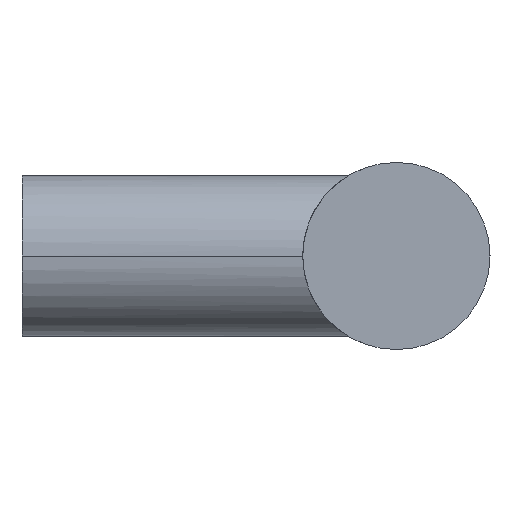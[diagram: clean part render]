
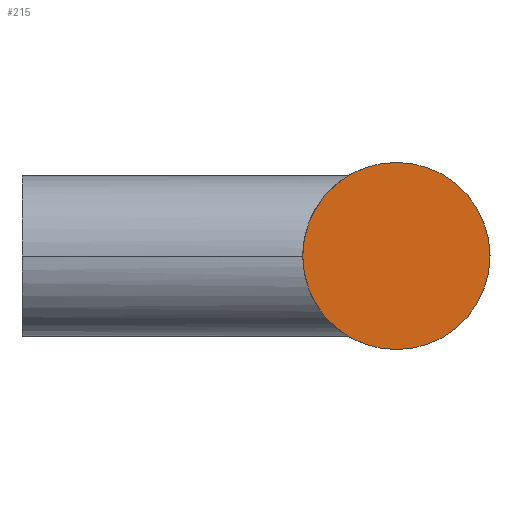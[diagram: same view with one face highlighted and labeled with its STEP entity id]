
A CAD part, left-side view. The second image highlights one B-rep face of the part: STEP entity #215.
In plain terms, the highlighted planar face has unit normal (-1, 0, 0).
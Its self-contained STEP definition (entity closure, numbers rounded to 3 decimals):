
#109 = VERTEX_POINT( '', #269 );
#135 = EDGE_CURVE( '', #163, #109, #297, .T. );
#145 = EDGE_CURVE( '', #109, #163, #312, .T. );
#163 = VERTEX_POINT( '', #332 );
#215 = ADVANCED_FACE( '', ( #390 ), #391, .F. );
#269 = CARTESIAN_POINT( '', ( -30., -28., 7. ) );
#297 = CIRCLE( '', #476, 7. );
#312 = CIRCLE( '', #494, 7. );
#332 = CARTESIAN_POINT( '', ( -30., -28., -7. ) );
#390 = FACE_OUTER_BOUND( '', #691, .T. );
#391 = PLANE( '', #692 );
#476 = AXIS2_PLACEMENT_3D( '', #795, #796, #797 );
#494 = AXIS2_PLACEMENT_3D( '', #821, #822, #823 );
#691 = EDGE_LOOP( '', ( #915, #916 ) );
#692 = AXIS2_PLACEMENT_3D( '', #917, #918, #919 );
#795 = CARTESIAN_POINT( '', ( -30., -28., 0. ) );
#796 = DIRECTION( '', ( 1., 0., 0. ) );
#797 = DIRECTION( '', ( 0., 0., -1. ) );
#821 = CARTESIAN_POINT( '', ( -30., -28., 0. ) );
#822 = DIRECTION( '', ( 1., 0., 0. ) );
#823 = DIRECTION( '', ( 0., 0., -1. ) );
#915 = ORIENTED_EDGE( '', *, *, #135, .F. );
#916 = ORIENTED_EDGE( '', *, *, #145, .F. );
#917 = CARTESIAN_POINT( '', ( -30., 0., 0. ) );
#918 = DIRECTION( '', ( 1., 0., 0. ) );
#919 = DIRECTION( '', ( 0., 0., -1. ) );
